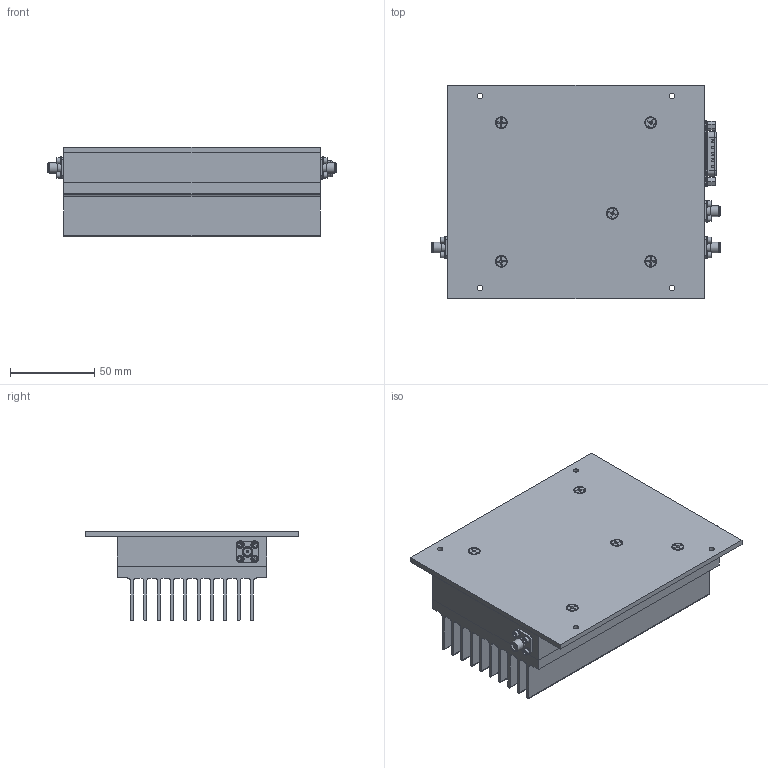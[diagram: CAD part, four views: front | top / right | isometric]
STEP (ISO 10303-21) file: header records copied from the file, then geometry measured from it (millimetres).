
FILE_DESCRIPTION((''),'2;1');
FILE_NAME('\\serpentor\Engineering\ENG\Models\TAxxxx\TA1011 1700-2200MHz 12Watt Class A\Design\Inventor\107-HS.stp','2015-08-05T14:10:15',('dcampbell'),(''),'Autodesk Inventor 2013','Autodesk Inventor 2013','');
FILE_SCHEMA(('AUTOMOTIVE_DESIGN { 1 0 10303 214 1 1 1 1 }'));
Length unit declared in the file: inch
Products named in the file (12): TA1011_3D_MODEL; T531262701_3D_MODEL; SMA_3D; Hexagon Socket Head Cap Screw - Inch No. 2 - 56 UNC - 3/16; Regular Helical Spring Lock Washer (Inch) No.2; 561-001; Helical Spring Lock Washers 0.112; 7W2M_3D; 7W2PIN_3D; T52141211; T50141211; Cross Recessed Flat Countersunk Head Machine Screw - Type I - Inch 6-32 x 1
Assembly tree (42 placements, depth 2):
  TA1011_3D_MODEL
    T531262701_3D_MODEL
    SMA_3D  x3
    Hexagon Socket Head Cap Screw - Inch No. 2 - 56 UNC - 3/16  x12
    Regular Helical Spring Lock Washer (Inch) No.2  x12
    561-001  x2
    Helical Spring Lock Washers 0.112  x2
    7W2M_3D
    7W2PIN_3D  x2
    T52141211
    T50141211
    Cross Recessed Flat Countersunk Head Machine Screw - Type I - Inch 6-32 x 1  x5
Bounding box: 171.45 x 127 x 53.34 mm (x, y, z)
Volume: 469332.3 mm3; surface area: 192843.8 mm2
Topology: 42 solids, 44 shells, 1135 faces, 2719 edges, 1757 vertices
Faces by surface type: plane 624, cylinder 320, cone 100, torus 77, bspline 7, sphere 7
Full cylindrical faces by diameter (mm): 0.737 x3, 1 x10, 1.245 x3, 1.295 x3, 1.6 x5, 1.702 x12, 2.159 x4, 2.184 x12, 2.591 x12, 2.642 x5, 2.769 x2, 3 x2, 3.175 x4, 3.505 x5, 3.556 x12, 3.6 x4, 3.81 x10, 4.597 x3, 4.6 x2, 4.73 x4, 5.28 x2, 5.486 x6, 5.5 x2, 6.198 x5, 6.35 x3
Entity records: 21090 total; most frequent: CARTESIAN_POINT 4366, DIRECTION 3442, ORIENTED_EDGE 3120, EDGE_CURVE 1560, AXIS2_PLACEMENT_3D 1248, VERTEX_POINT 1069, VECTOR 946, LINE 946
